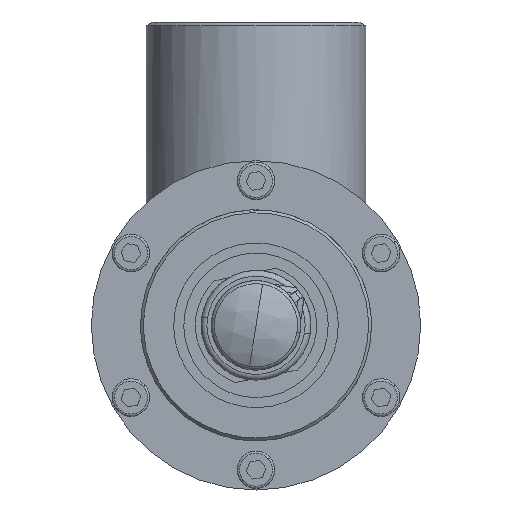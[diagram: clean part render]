
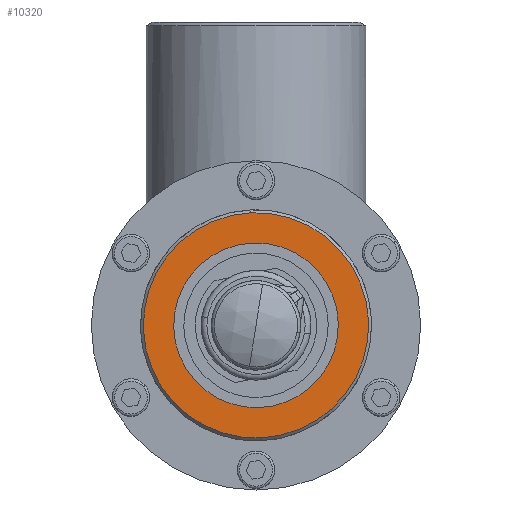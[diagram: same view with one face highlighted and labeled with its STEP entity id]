
A CAD part, front view. The second image highlights one B-rep face of the part: STEP entity #10320.
In plain terms, the highlighted planar face has unit normal (0, -1, 0) as drawn and (0, 1, 0) by its records, which use the part's own axes.
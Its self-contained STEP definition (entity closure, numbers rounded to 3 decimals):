
#16893 = EDGE_CURVE ( 'NONE', #13367, #13613, #2831, .T. ) ;
#17295 = ORIENTED_EDGE ( 'NONE', *, *, #16893, .F. ) ;
#17842 = ORIENTED_EDGE ( 'NONE', *, *, #13765, .F. ) ;
#18397 = EDGE_LOOP ( 'NONE', ( #17842, #17295 ) ) ;
#18658 = ORIENTED_EDGE ( 'NONE', *, *, #4224, .F. ) ;
#2831 = CIRCLE ( 'NONE', #2832, 39. ) ;
#2832 = AXIS2_PLACEMENT_3D ( 'NONE', #2833, #2858, #2859 ) ;
#2833 = CARTESIAN_POINT ( 'NONE',  ( 0., 145., 0. ) ) ;
#2858 = DIRECTION ( 'NONE',  ( 0., -1., 0. ) ) ;
#2859 = DIRECTION ( 'NONE',  ( 0., 0., -1. ) ) ;
#20271 = CARTESIAN_POINT ( 'NONE',  ( 0., 145., 39. ) ) ;
#3979 = VERTEX_POINT ( 'NONE', #24634 ) ;
#4200 = CIRCLE ( 'NONE', #4201, 25.25 ) ;
#4201 = AXIS2_PLACEMENT_3D ( 'NONE', #4206, #4207, #4208 ) ;
#4206 = CARTESIAN_POINT ( 'NONE',  ( 0., 145., 0. ) ) ;
#4207 = DIRECTION ( 'NONE',  ( 0., 1., 0. ) ) ;
#4208 = DIRECTION ( 'NONE',  ( 0., 0., 1. ) ) ;
#4224 = EDGE_CURVE ( 'NONE', #5183, #3979, #4200, .T. ) ;
#20715 = CARTESIAN_POINT ( 'NONE',  ( 0., 145., -39. ) ) ;
#20935 = CIRCLE ( 'NONE', #20936, 39. ) ;
#20936 = AXIS2_PLACEMENT_3D ( 'NONE', #20937, #20938, #20939 ) ;
#20937 = CARTESIAN_POINT ( 'NONE',  ( 0., 145., 0. ) ) ;
#20938 = DIRECTION ( 'NONE',  ( 0., -1., 0. ) ) ;
#20939 = DIRECTION ( 'NONE',  ( 0., 0., -1. ) ) ;
#5183 = VERTEX_POINT ( 'NONE', #5481 ) ;
#5481 = CARTESIAN_POINT ( 'NONE',  ( 0., 145., -25.25 ) ) ;
#24634 = CARTESIAN_POINT ( 'NONE',  ( 0., 145., 25.25 ) ) ;
#9118 = EDGE_CURVE ( 'NONE', #3979, #5183, #10677, .T. ) ;
#9497 = ORIENTED_EDGE ( 'NONE', *, *, #9118, .F. ) ;
#10068 = EDGE_LOOP ( 'NONE', ( #9497, #18658 ) ) ;
#10320 = ADVANCED_FACE ( 'NONE', ( #14791, #14792 ), #14793, .T. ) ;
#10677 = CIRCLE ( 'NONE', #10678, 25.25 ) ;
#10678 = AXIS2_PLACEMENT_3D ( 'NONE', #10679, #10680, #10681 ) ;
#10679 = CARTESIAN_POINT ( 'NONE',  ( 0., 145., 0. ) ) ;
#10680 = DIRECTION ( 'NONE',  ( 0., 1., 0. ) ) ;
#10681 = DIRECTION ( 'NONE',  ( 0., 0., 1. ) ) ;
#13367 = VERTEX_POINT ( 'NONE', #20271 ) ;
#13613 = VERTEX_POINT ( 'NONE', #20715 ) ;
#13765 = EDGE_CURVE ( 'NONE', #13613, #13367, #20935, .T. ) ;
#14791 = FACE_BOUND ( 'NONE', #10068, .T. ) ;
#14792 = FACE_OUTER_BOUND ( 'NONE', #18397, .T. ) ;
#14793 = PLANE ( 'NONE',  #14794 ) ;
#14794 = AXIS2_PLACEMENT_3D ( 'NONE', #14795, #14796, #14797 ) ;
#14795 = CARTESIAN_POINT ( 'NONE',  ( 0., 145., 0. ) ) ;
#14796 = DIRECTION ( 'NONE',  ( 0., 1., 0. ) ) ;
#14797 = DIRECTION ( 'NONE',  ( 0., 0., 1. ) ) ;
